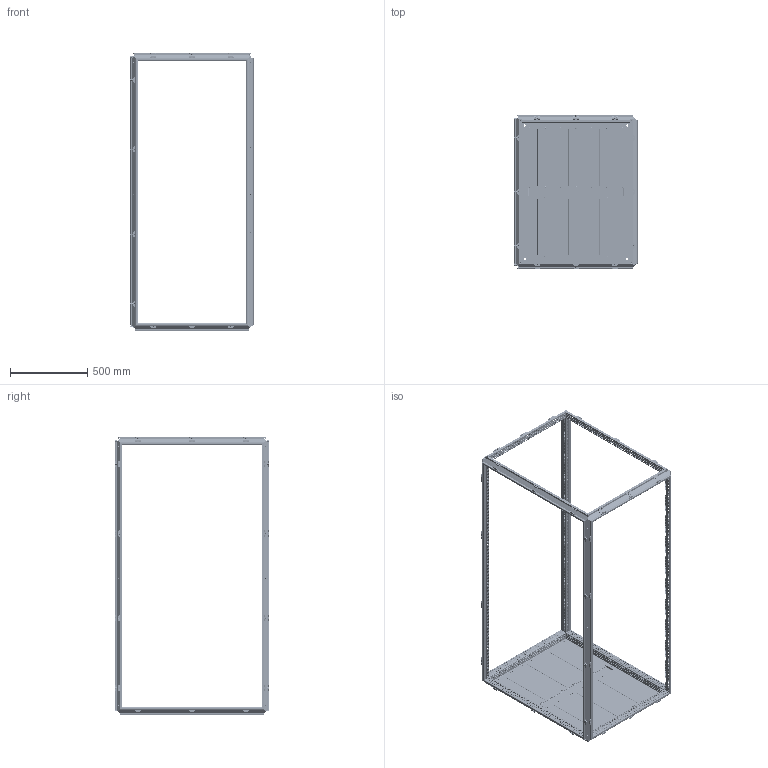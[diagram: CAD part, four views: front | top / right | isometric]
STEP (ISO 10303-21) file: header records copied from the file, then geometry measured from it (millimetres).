
FILE_DESCRIPTION(('STEP AP203'), '1');
FILE_NAME('3000 忺謤僔 捘', '', ('UNSPECIFIED'), ('UNSPECIFIED'), 'C3D Converter', 'C3D Toolkit', '');
FILE_SCHEMA(('CONFIG_CONTROL_DESIGN'));
Length unit declared in the file: millimetre
Products named in the file (14): 3000.180.100.80 СБ; 3000; 3007.175; 3007.75; 3007.200; 3006; 3009.04; 3009.04.01; 3009.04.2; 3009.04.01.2
Assembly tree (182 placements, depth 3):
  3000.180.100.80 СБ
    3000
    (unnamed)  x104
    3007.175  x2
    (unnamed)  x30
    3007.75  x2
    3007.200  x4
    3006
    3009.04  x12
      3009.04.01
      (unnamed)
      (unnamed)
    3009.04.2  x17
      3009.04.01.2
      (unnamed)
      (unnamed)
Bounding box: 797 x 997 x 1798.5 mm (x, y, z)
Volume: 4842257 mm3; surface area: 6416211 mm2
Topology: 293 solids, 293 shells, 20215 faces, 56211 edges, 37040 vertices
Faces by surface type: plane 13869, cylinder 4986, cone 872, torus 292, bspline 196
Full cylindrical faces by diameter (mm): 4.134 x150, 4.5 x2150, 4.8 x30, 5 x164, 5.8 x46, 6.8 x208, 7 x104, 7.5 x58, 8 x104, 9.2 x58, 10.106 x8, 14 x4
Entity records: 426836 total; most frequent: CARTESIAN_POINT 78153, ORIENTED_EDGE 68446, DIRECTION 64889, EDGE_CURVE 34223, LINE 28099, VECTOR 28099, VERTEX_POINT 24142, EDGE_LOOP 23497
